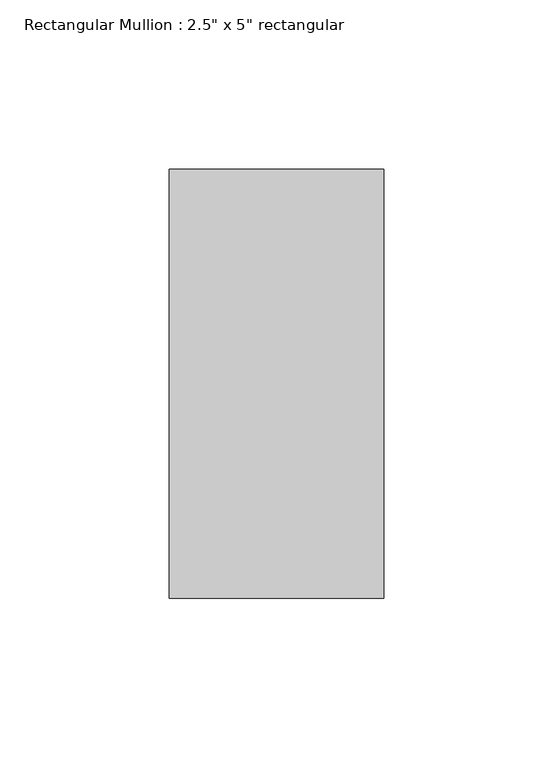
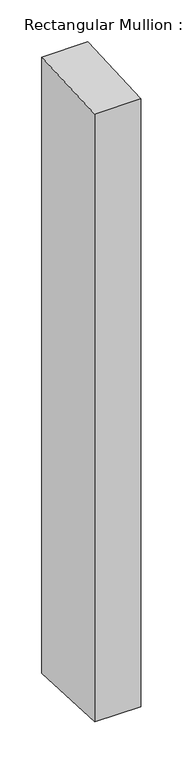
"""IFC4 building model written with IfcOpenShell, lengths in millimetres: member geometry."""

from ifc_helpers import new_model, si_unit, frame, origin, place, context, project, spatial, polyline, outline, extrude, source, transform, mapped, element, save


def member_bc59259d(model_context):
    return source(origin(), model_context, "Body", "SweptSolid", [
        extrude(outline(polyline([(-63.5, -3.1625842), (63.5, 3.1625842), (63.5, -897.3817998), (-63.5, -891.0566315), (-63.5, -3.1625842)])), frame((-63.5, 0.0, 0.0), z_axis=(1.0, 0.0, 0.0), x_axis=(0.0, 1.0, 0.0)), (0.0, 0.0, 1.0), 63.5),
    ])


if __name__ == "__main__":
    model = new_model("IFC4")
    model_context = context("Model", 3, world=origin())
    ifc_project = project(units=[si_unit("LENGTHUNIT", "METRE", prefix="MILLI")], contexts=[model_context])
    site = spatial("IfcSite", under=ifc_project)
    building = spatial("IfcBuilding", under=site)
    placement = place(None, origin())
    member_shape = member_bc59259d(model_context)
    element("IfcMember", 1, ObjectType="Rectangular Mullion : 2.5\" x 5\" rectangular", at=placement, inside=building, context=model_context, shape_type="MappedRepresentation", body=[
        mapped(member_shape, transform((0.0, 0.0, 0.0), x_axis=(1.0, 0.0, 0.0), y_axis=(0.0, 1.0, 0.0), z_axis=(0.0, 0.0, 1.0))),
    ])
    save(model, "model.ifc")
